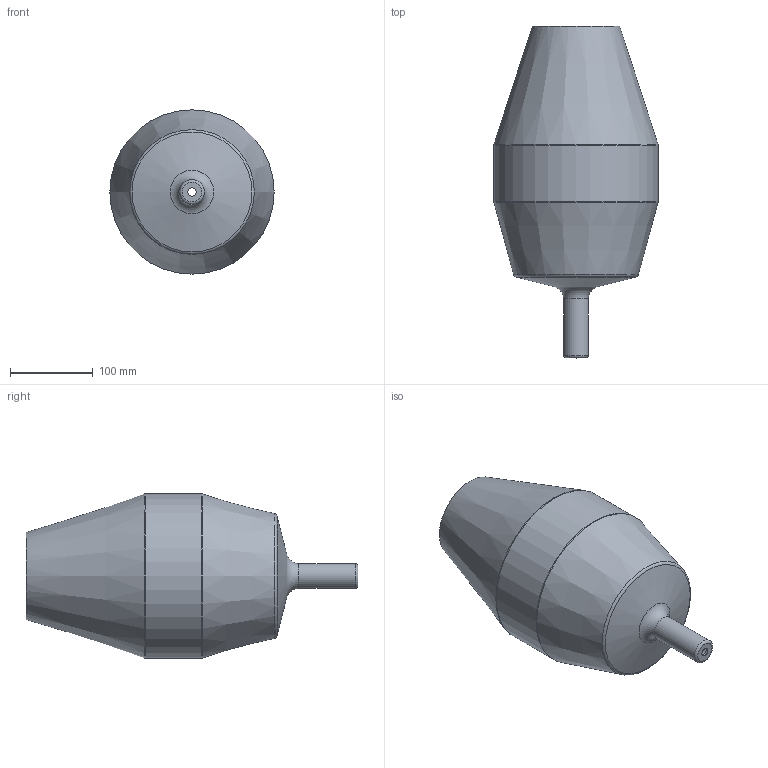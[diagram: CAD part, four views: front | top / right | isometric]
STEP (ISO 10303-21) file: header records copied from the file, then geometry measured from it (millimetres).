
FILE_DESCRIPTION(/* description */ (''),/* implementation_level */ '2;1');
FILE_NAME(/* name */ 'C:\Users\STEFANO\Desktop\3D SEM\1602-22 - MOM SOSPENSIONE TALL F.E\SEM.000038.stp',/* time_stamp */ '2019-09-16T16:15:18+02:00',/* author */ ('STEFANO'),/* organization */ (''),/* preprocessor_version */ 'ST-DEVELOPER v17',/* originating_system */ 'Autodesk Inventor 2019',/* authorisation */ '');
FILE_SCHEMA (('AUTOMOTIVE_DESIGN { 1 0 10303 214 3 1 1 }'));
Length unit declared in the file: millimetre
Products named in the file (1): VETRO TALL
Bounding box: 198 x 400 x 198 mm (x, y, z)
Volume: 652977.5 mm3; surface area: 522513.3 mm2
Topology: 1 solids, 1 shells, 30 faces, 101 edges, 75 vertices
Faces by surface type: torus 12, cone 8, cylinder 6, plane 4
Full cylindrical faces by diameter (mm): 10 x2, 25 x1, 30 x1, 193 x1, 198 x1
Entity records: 1239 total; most frequent: DIRECTION 250, CARTESIAN_POINT 207, ORIENTED_EDGE 202, AXIS2_PLACEMENT_3D 118, EDGE_CURVE 101, CIRCLE 87, VERTEX_POINT 75, EDGE_LOOP 34
